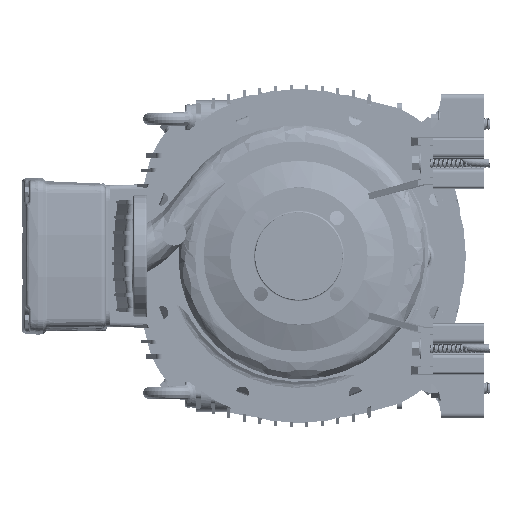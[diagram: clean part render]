
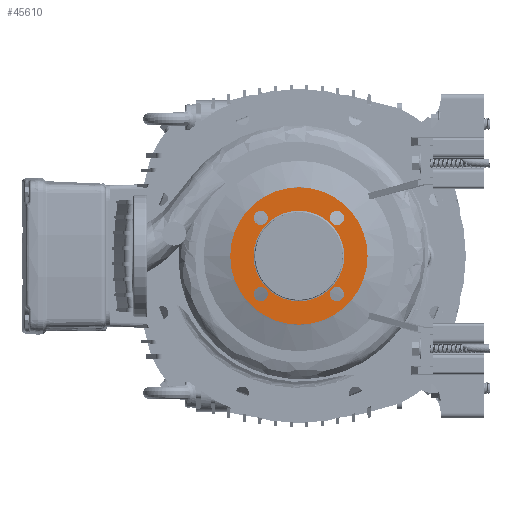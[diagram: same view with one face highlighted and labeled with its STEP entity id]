
A CAD part, left-side view. The second image highlights one B-rep face of the part: STEP entity #45610.
In plain terms, the highlighted planar face has unit normal (-1, 0, 0).
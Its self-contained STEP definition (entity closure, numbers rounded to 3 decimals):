
#270 = DIRECTION ( 'NONE',  ( 0., -1., 0. ) ) ;
#1759 = CIRCLE ( 'NONE', #143457, 61. ) ;
#3883 = ORIENTED_EDGE ( 'NONE', *, *, #53395, .T. ) ;
#4820 = CARTESIAN_POINT ( 'NONE',  ( 65.739, 190.888, 462.73 ) ) ;
#7249 = CARTESIAN_POINT ( 'NONE',  ( 65.739, 149.123, 411.465 ) ) ;
#7918 = CARTESIAN_POINT ( 'NONE',  ( 65.739, 200.388, 369.7 ) ) ;
#8050 = ORIENTED_EDGE ( 'NONE', *, *, #10827, .F. ) ;
#8104 = DIRECTION ( 'NONE',  ( 1., 0., 0. ) ) ;
#8640 = CARTESIAN_POINT ( 'NONE',  ( 65.739, 149.123, 411.465 ) ) ;
#9381 = DIRECTION ( 'NONE',  ( -1., 0., 0. ) ) ;
#10759 = CARTESIAN_POINT ( 'NONE',  ( 65.739, 200.388, 462.73 ) ) ;
#10827 = EDGE_CURVE ( 'NONE', #17402, #49474, #19071, .T. ) ;
#10844 = CARTESIAN_POINT ( 'NONE',  ( 65.739, 149.123, 411.465 ) ) ;
#10972 = VERTEX_POINT ( 'NONE', #16867 ) ;
#11422 = AXIS2_PLACEMENT_3D ( 'NONE', #11616, #79406, #270 ) ;
#11616 = CARTESIAN_POINT ( 'NONE',  ( 65.739, 210.123, 411.465 ) ) ;
#12110 = CIRCLE ( 'NONE', #76044, 9.5 ) ;
#16867 = CARTESIAN_POINT ( 'NONE',  ( 65.739, 56.623, 411.465 ) ) ;
#17402 = VERTEX_POINT ( 'NONE', #72865 ) ;
#18736 = AXIS2_PLACEMENT_3D ( 'NONE', #10844, #89108, #142213 ) ;
#19071 = CIRCLE ( 'NONE', #77296, 9.5 ) ;
#24646 = AXIS2_PLACEMENT_3D ( 'NONE', #29284, #109292, #110132 ) ;
#26471 = DIRECTION ( 'NONE',  ( -1., 0., 0. ) ) ;
#27864 = CARTESIAN_POINT ( 'NONE',  ( 65.739, 149.123, 411.465 ) ) ;
#28565 = ORIENTED_EDGE ( 'NONE', *, *, #165443, .F. ) ;
#28719 = EDGE_CURVE ( 'NONE', #92462, #129061, #64496, .T. ) ;
#28722 = CARTESIAN_POINT ( 'NONE',  ( 65.739, 241.623, 411.465 ) ) ;
#29284 = CARTESIAN_POINT ( 'NONE',  ( 65.739, 200.388, 360.2 ) ) ;
#31024 = CARTESIAN_POINT ( 'NONE',  ( 65.739, 97.857, 360.2 ) ) ;
#39335 = ORIENTED_EDGE ( 'NONE', *, *, #162640, .F. ) ;
#45610 = ADVANCED_FACE ( 'NONE', ( #104673, #132516, #119452, #131668, #81119, #64677 ), #170772, .T. ) ;
#46148 = CARTESIAN_POINT ( 'NONE',  ( 65.739, 200.388, 360.2 ) ) ;
#47024 = ORIENTED_EDGE ( 'NONE', *, *, #84558, .F. ) ;
#47800 = DIRECTION ( 'NONE',  ( 1., 0., 0. ) ) ;
#47863 = AXIS2_PLACEMENT_3D ( 'NONE', #10759, #166496, #63812 ) ;
#48653 = EDGE_LOOP ( 'NONE', ( #8050, #119395 ) ) ;
#49474 = VERTEX_POINT ( 'NONE', #149917 ) ;
#51471 = CARTESIAN_POINT ( 'NONE',  ( 65.739, 107.357, 360.2 ) ) ;
#53395 = EDGE_CURVE ( 'NONE', #141188, #65907, #93724, .T. ) ;
#56386 = DIRECTION ( 'NONE',  ( -1., 0., 0. ) ) ;
#57505 = CARTESIAN_POINT ( 'NONE',  ( 65.739, 210.123, 411.465 ) ) ;
#58637 = AXIS2_PLACEMENT_3D ( 'NONE', #77531, #156717, #78382 ) ;
#60368 = EDGE_LOOP ( 'NONE', ( #106574, #3883 ) ) ;
#61581 = EDGE_LOOP ( 'NONE', ( #28565, #69185 ) ) ;
#63812 = DIRECTION ( 'NONE',  ( 0., -1., 0. ) ) ;
#64496 = CIRCLE ( 'NONE', #47863, 9.5 ) ;
#64677 = FACE_OUTER_BOUND ( 'NONE', #154250, .T. ) ;
#64839 = EDGE_CURVE ( 'NONE', #49474, #17402, #69309, .T. ) ;
#65907 = VERTEX_POINT ( 'NONE', #57505 ) ;
#66398 = ORIENTED_EDGE ( 'NONE', *, *, #133648, .F. ) ;
#67979 = AXIS2_PLACEMENT_3D ( 'NONE', #27864, #144456, #77472 ) ;
#69185 = ORIENTED_EDGE ( 'NONE', *, *, #145732, .F. ) ;
#69309 = CIRCLE ( 'NONE', #88643, 9.5 ) ;
#70237 = ORIENTED_EDGE ( 'NONE', *, *, #28719, .F. ) ;
#72865 = CARTESIAN_POINT ( 'NONE',  ( 65.739, 97.857, 472.23 ) ) ;
#73970 = DIRECTION ( 'NONE',  ( -1., 0., 0. ) ) ;
#76044 = AXIS2_PLACEMENT_3D ( 'NONE', #46148, #73970, #152281 ) ;
#77296 = AXIS2_PLACEMENT_3D ( 'NONE', #158712, #9381, #115504 ) ;
#77472 = DIRECTION ( 'NONE',  ( 0., 1., 0. ) ) ;
#77531 = CARTESIAN_POINT ( 'NONE',  ( 65.739, 97.857, 360.2 ) ) ;
#78382 = DIRECTION ( 'NONE',  ( 0., 1., 0. ) ) ;
#79406 = DIRECTION ( 'NONE',  ( -1., 0., 0. ) ) ;
#80680 = CARTESIAN_POINT ( 'NONE',  ( 65.739, 88.123, 411.465 ) ) ;
#81119 = FACE_BOUND ( 'NONE', #60368, .T. ) ;
#84060 = DIRECTION ( 'NONE',  ( 0., 1., 0. ) ) ;
#84558 = EDGE_CURVE ( 'NONE', #129061, #92462, #140248, .T. ) ;
#84594 = EDGE_LOOP ( 'NONE', ( #70237, #47024 ) ) ;
#87118 = ORIENTED_EDGE ( 'NONE', *, *, #142293, .F. ) ;
#88643 = AXIS2_PLACEMENT_3D ( 'NONE', #134718, #56386, #106875 ) ;
#89108 = DIRECTION ( 'NONE',  ( 1., 0., 0. ) ) ;
#92462 = VERTEX_POINT ( 'NONE', #4820 ) ;
#93724 = CIRCLE ( 'NONE', #18736, 61. ) ;
#94292 = CARTESIAN_POINT ( 'NONE',  ( 65.739, 200.388, 462.73 ) ) ;
#99192 = EDGE_CURVE ( 'NONE', #152469, #10972, #137378, .T. ) ;
#100396 = CIRCLE ( 'NONE', #58637, 9.5 ) ;
#104673 = FACE_BOUND ( 'NONE', #61581, .T. ) ;
#106574 = ORIENTED_EDGE ( 'NONE', *, *, #171989, .T. ) ;
#106875 = DIRECTION ( 'NONE',  ( 0., 0., -1. ) ) ;
#108586 = CIRCLE ( 'NONE', #130827, 92.5 ) ;
#109292 = DIRECTION ( 'NONE',  ( -1., 0., 0. ) ) ;
#110132 = DIRECTION ( 'NONE',  ( 0., 0., 1. ) ) ;
#113550 = CIRCLE ( 'NONE', #24646, 9.5 ) ;
#114026 = VERTEX_POINT ( 'NONE', #114367 ) ;
#114367 = CARTESIAN_POINT ( 'NONE',  ( 65.739, 88.357, 360.2 ) ) ;
#115504 = DIRECTION ( 'NONE',  ( 0., 0., -1. ) ) ;
#118785 = CARTESIAN_POINT ( 'NONE',  ( 65.739, 209.888, 462.73 ) ) ;
#119395 = ORIENTED_EDGE ( 'NONE', *, *, #64839, .F. ) ;
#119452 = FACE_BOUND ( 'NONE', #48653, .T. ) ;
#120747 = AXIS2_PLACEMENT_3D ( 'NONE', #94292, #26471, #132603 ) ;
#122728 = ORIENTED_EDGE ( 'NONE', *, *, #99192, .F. ) ;
#129061 = VERTEX_POINT ( 'NONE', #118785 ) ;
#129474 = VERTEX_POINT ( 'NONE', #51471 ) ;
#130827 = AXIS2_PLACEMENT_3D ( 'NONE', #8640, #47800, #167817 ) ;
#131668 = FACE_BOUND ( 'NONE', #84594, .T. ) ;
#132516 = FACE_BOUND ( 'NONE', #148466, .T. ) ;
#132603 = DIRECTION ( 'NONE',  ( 0., -1., 0. ) ) ;
#133648 = EDGE_CURVE ( 'NONE', #129474, #114026, #146261, .T. ) ;
#134718 = CARTESIAN_POINT ( 'NONE',  ( 65.739, 97.857, 462.73 ) ) ;
#135479 = DIRECTION ( 'NONE',  ( -1., 0., 0. ) ) ;
#137378 = CIRCLE ( 'NONE', #67979, 92.5 ) ;
#140248 = CIRCLE ( 'NONE', #120747, 9.5 ) ;
#140703 = AXIS2_PLACEMENT_3D ( 'NONE', #31024, #135479, #84060 ) ;
#141188 = VERTEX_POINT ( 'NONE', #80680 ) ;
#142213 = DIRECTION ( 'NONE',  ( 0., 1., 0. ) ) ;
#142293 = EDGE_CURVE ( 'NONE', #10972, #152469, #108586, .T. ) ;
#143457 = AXIS2_PLACEMENT_3D ( 'NONE', #7249, #8104, #154237 ) ;
#144456 = DIRECTION ( 'NONE',  ( 1., 0., 0. ) ) ;
#145732 = EDGE_CURVE ( 'NONE', #170774, #160806, #113550, .T. ) ;
#146261 = CIRCLE ( 'NONE', #140703, 9.5 ) ;
#148466 = EDGE_LOOP ( 'NONE', ( #39335, #66398 ) ) ;
#149917 = CARTESIAN_POINT ( 'NONE',  ( 65.739, 97.857, 453.23 ) ) ;
#150103 = CARTESIAN_POINT ( 'NONE',  ( 65.739, 200.388, 350.7 ) ) ;
#152281 = DIRECTION ( 'NONE',  ( 0., 0., 1. ) ) ;
#152469 = VERTEX_POINT ( 'NONE', #28722 ) ;
#154237 = DIRECTION ( 'NONE',  ( 0., 1., 0. ) ) ;
#154250 = EDGE_LOOP ( 'NONE', ( #122728, #87118 ) ) ;
#156717 = DIRECTION ( 'NONE',  ( -1., 0., 0. ) ) ;
#158712 = CARTESIAN_POINT ( 'NONE',  ( 65.739, 97.857, 462.73 ) ) ;
#160806 = VERTEX_POINT ( 'NONE', #7918 ) ;
#162640 = EDGE_CURVE ( 'NONE', #114026, #129474, #100396, .T. ) ;
#165443 = EDGE_CURVE ( 'NONE', #160806, #170774, #12110, .T. ) ;
#166496 = DIRECTION ( 'NONE',  ( -1., 0., 0. ) ) ;
#167817 = DIRECTION ( 'NONE',  ( 0., 1., 0. ) ) ;
#170772 = PLANE ( 'NONE',  #11422 ) ;
#170774 = VERTEX_POINT ( 'NONE', #150103 ) ;
#171989 = EDGE_CURVE ( 'NONE', #65907, #141188, #1759, .T. ) ;
